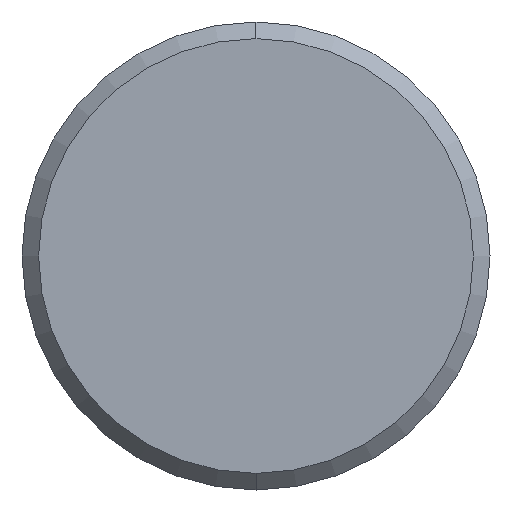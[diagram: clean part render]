
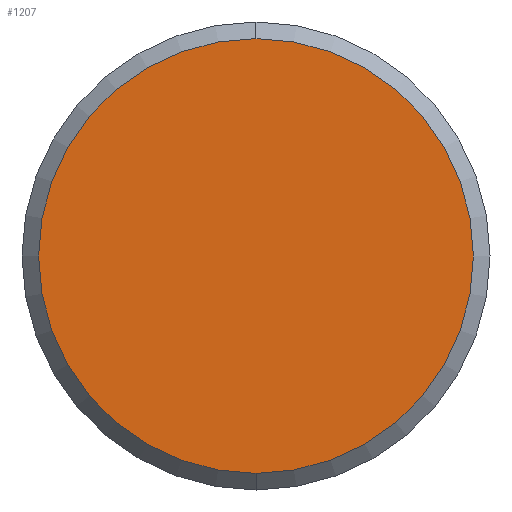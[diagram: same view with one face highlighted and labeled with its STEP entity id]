
A CAD part, left-side view. The second image highlights one B-rep face of the part: STEP entity #1207.
In plain terms, the highlighted planar face has unit normal (-1, 0, 0).
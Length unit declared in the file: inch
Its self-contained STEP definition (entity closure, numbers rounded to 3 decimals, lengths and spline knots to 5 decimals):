
#60 = EDGE_CURVE ( 'NONE', #1374, #1340, #1699, .T. ) ;
#146 = AXIS2_PLACEMENT_3D ( 'NONE', #931, #932, #933 ) ;
#242 = AXIS2_PLACEMENT_3D ( 'NONE', #342, #343, #344 ) ;
#269 = AXIS2_PLACEMENT_3D ( 'NONE', #728, #736, #737 ) ;
#303 = EDGE_CURVE ( 'NONE', #1340, #1374, #531, .T. ) ;
#342 = CARTESIAN_POINT ( 'NONE',  ( -3.50268, 0.16473, 0. ) ) ;
#343 = DIRECTION ( 'NONE',  ( 1., 0., 0. ) ) ;
#344 = DIRECTION ( 'NONE',  ( 0., 0., -1. ) ) ;
#458 = FACE_OUTER_BOUND ( 'NONE', #874, .T. ) ;
#531 = CIRCLE ( 'NONE', #242, 0.8175 ) ;
#728 = CARTESIAN_POINT ( 'NONE',  ( -3.50268, 0.16473, 0. ) ) ;
#736 = DIRECTION ( 'NONE',  ( 1., 0., 0. ) ) ;
#737 = DIRECTION ( 'NONE',  ( 0., 0., -1. ) ) ;
#776 = ORIENTED_EDGE ( 'NONE', *, *, #303, .F. ) ;
#777 = ORIENTED_EDGE ( 'NONE', *, *, #60, .F. ) ;
#874 = EDGE_LOOP ( 'NONE', ( #777, #776 ) ) ;
#922 = PLANE ( 'NONE',  #146 ) ;
#931 = CARTESIAN_POINT ( 'NONE',  ( -3.50268, -0.4837, -0.2177 ) ) ;
#932 = DIRECTION ( 'NONE',  ( -1., 0., 0. ) ) ;
#933 = DIRECTION ( 'NONE',  ( 0., 0., 1. ) ) ;
#1207 = ADVANCED_FACE ( 'NONE', ( #458 ), #922, .T. ) ;
#1340 = VERTEX_POINT ( 'NONE', #1835 ) ;
#1374 = VERTEX_POINT ( 'NONE', #1868 ) ;
#1699 = CIRCLE ( 'NONE', #269, 0.8175 ) ;
#1835 = CARTESIAN_POINT ( 'NONE',  ( -3.50268, 0.16473, 0.8175 ) ) ;
#1868 = CARTESIAN_POINT ( 'NONE',  ( -3.50268, 0.16473, -0.8175 ) ) ;
